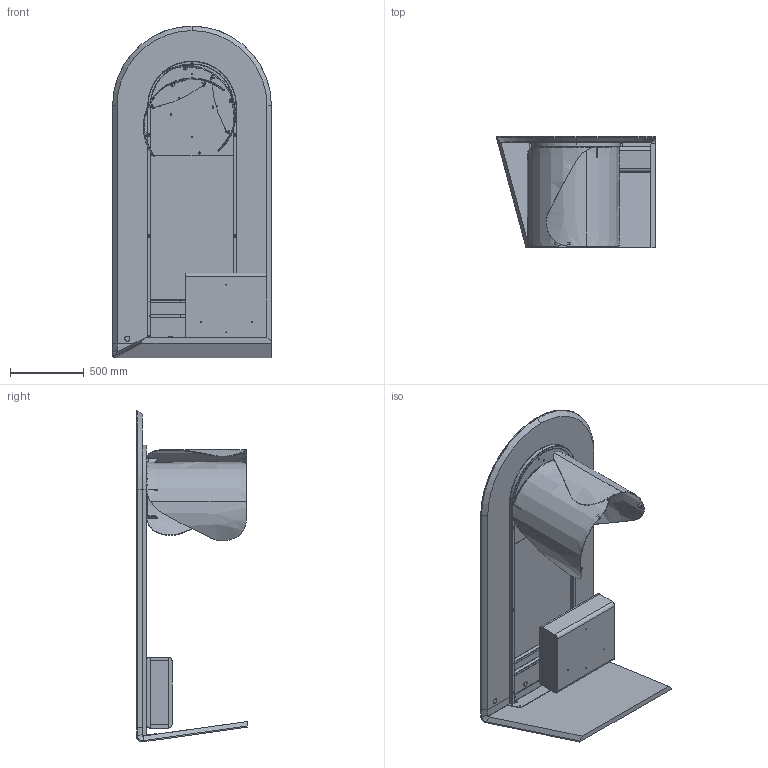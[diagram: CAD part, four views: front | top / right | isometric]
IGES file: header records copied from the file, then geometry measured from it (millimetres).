
Start section: SolidWorks IGES file using analytic representation for surfaces
Global section: file name: Y:\eforma\TECNICO\SOLIDWORKS\E-FORMA\7-SCRIVANIE\DESK\02 parts\OD70C_Cilindro Desk_225x108x75h_Ceramic.IGS; native system: SolidWorks 2022; preprocessor: SolidWorks 2022; author: eforma.tech; date: 240806.090956; units: millimetre
Bounding box: 1075 x 750 x 2245 mm (x, y, z)
Volume: 135285247.7 mm3; surface area: 16370039.7 mm2
Topology: 23 solids, 23 shells, 747 faces, 1965 edges, 1232 vertices
Faces by surface type: revolution 441, plane 261, bspline 45
